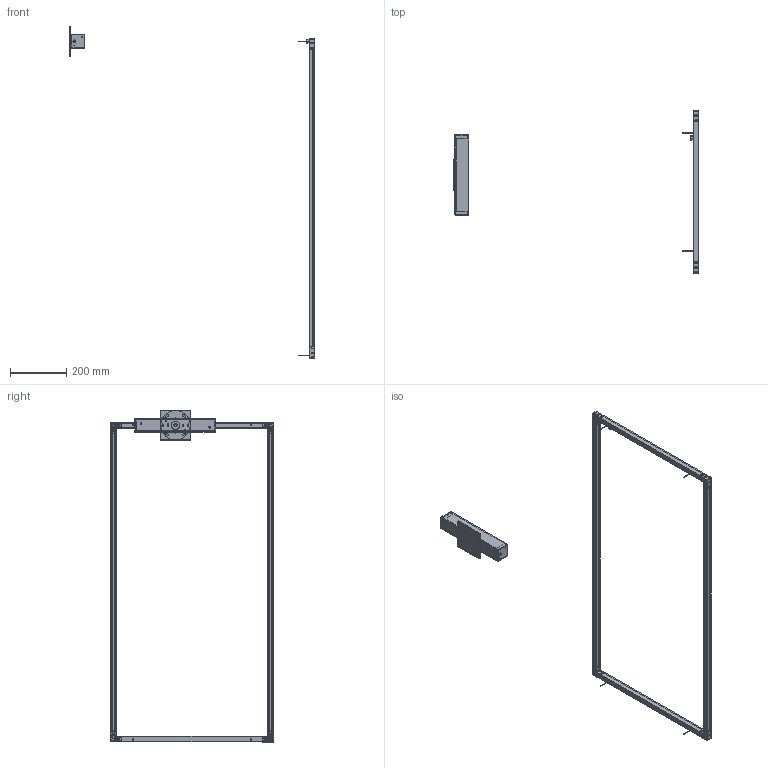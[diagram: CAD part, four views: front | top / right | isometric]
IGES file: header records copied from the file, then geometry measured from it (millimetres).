
Start section: SolidWorks IGES file using analytic representation for surfaces
Global section: file name: C:\Users\dtentori\Desktop\3d sito usa\SPIGOLO pendant H\SPIGOLO pendant H.IGS; native system: SolidWorks 2016; preprocessor: SolidWorks 2016; author: dtentori; date: 170728.124000; units: millimetre
Bounding box: 876 x 579.9 x 1184.4 mm (x, y, z)
Surface area: 746862.5 mm2 (no closed solid volume)
Topology: 0 solids, 0 shells, 5131 faces, 51170 edges, 51148 vertices
Faces by surface type: bspline 4018, revolution 1113
